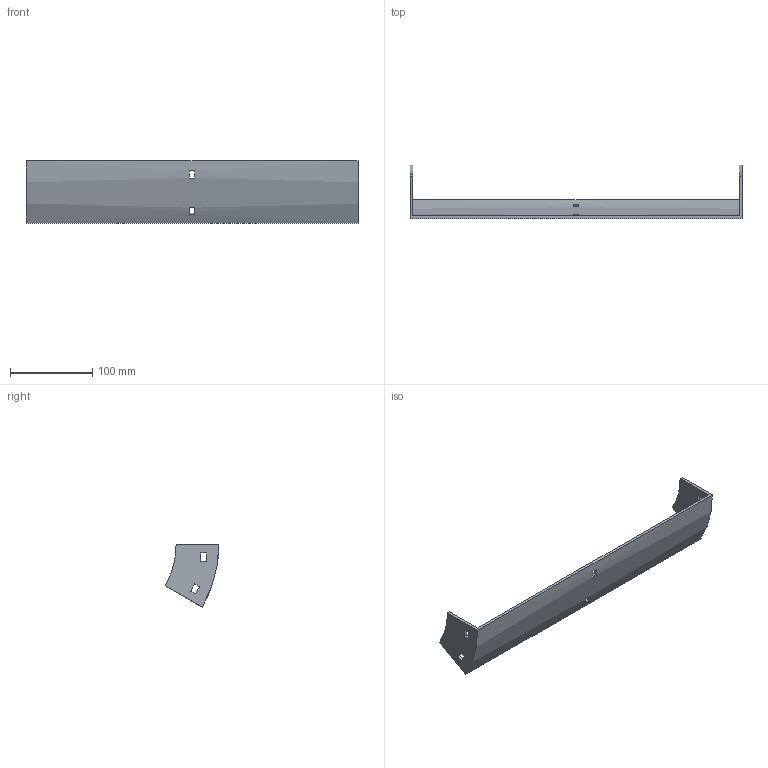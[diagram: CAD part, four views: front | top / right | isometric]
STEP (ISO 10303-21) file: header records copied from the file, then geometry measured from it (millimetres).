
FILE_DESCRIPTION (( 'STEP AP214' ), '1' );
FILE_NAME ('32B1B400.step', '2025-02-21T09:43:38', ( '' ), ( '' ), 'SwSTEP 2.0', 'SolidWorks 2023', '' );
FILE_SCHEMA (( 'AUTOMOTIVE_DESIGN' ));
Length unit declared in the file: millimetre
Products named in the file (1): 32B1B400
Bounding box: 404 x 65.4 x 76 mm (x, y, z)
Volume: 131935.2 mm3; surface area: 79965.9 mm2
Topology: 1 solids, 1 shells, 34 faces, 96 edges, 64 vertices
Faces by surface type: plane 30, cylinder 4
Entity records: 1143 total; most frequent: CARTESIAN_POINT 195, ORIENTED_EDGE 192, DIRECTION 182, EDGE_CURVE 96, VECTOR 80, LINE 80, VERTEX_POINT 64, AXIS2_PLACEMENT_3D 51
